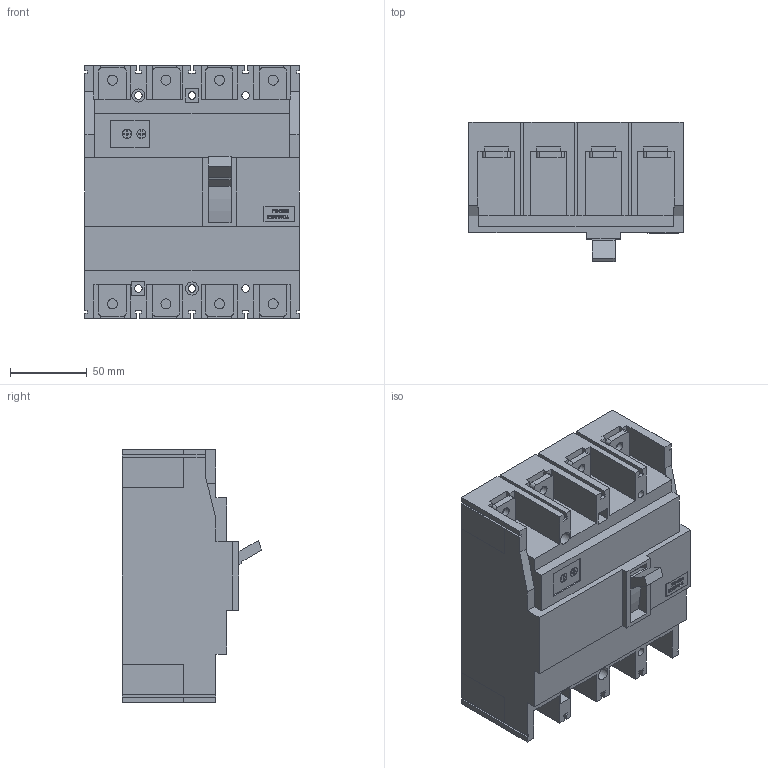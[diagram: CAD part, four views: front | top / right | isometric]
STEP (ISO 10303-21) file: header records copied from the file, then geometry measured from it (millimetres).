
FILE_DESCRIPTION((''),'2;1');
FILE_NAME('S160GJ4160','2012-09-20T',('cmahecha'),(''),'PRO/ENGINEER BY PARAMETRIC TECHNOLOGY CORPORATION, 2010280','PRO/ENGINEER BY PARAMETRIC TECHNOLOGY CORPORATION, 2010280','');
FILE_SCHEMA(('CONFIG_CONTROL_DESIGN'));
Length unit declared in the file: millimetre
Products named in the file (1): S160GJ4160
Bounding box: 140 x 90.8 x 165 mm (x, y, z)
Volume: 1340244.5 mm3; surface area: 124276.6 mm2
Topology: 1 solids, 1 shells, 735 faces, 2069 edges, 1371 vertices
Faces by surface type: plane 677, cylinder 58
Entity records: 23401 total; most frequent: CARTESIAN_POINT 4175, ORIENTED_EDGE 4138, DIRECTION 3663, EDGE_CURVE 2069, VECTOR 1945, LINE 1945, VERTEX_POINT 1371, AXIS2_PLACEMENT_3D 859
